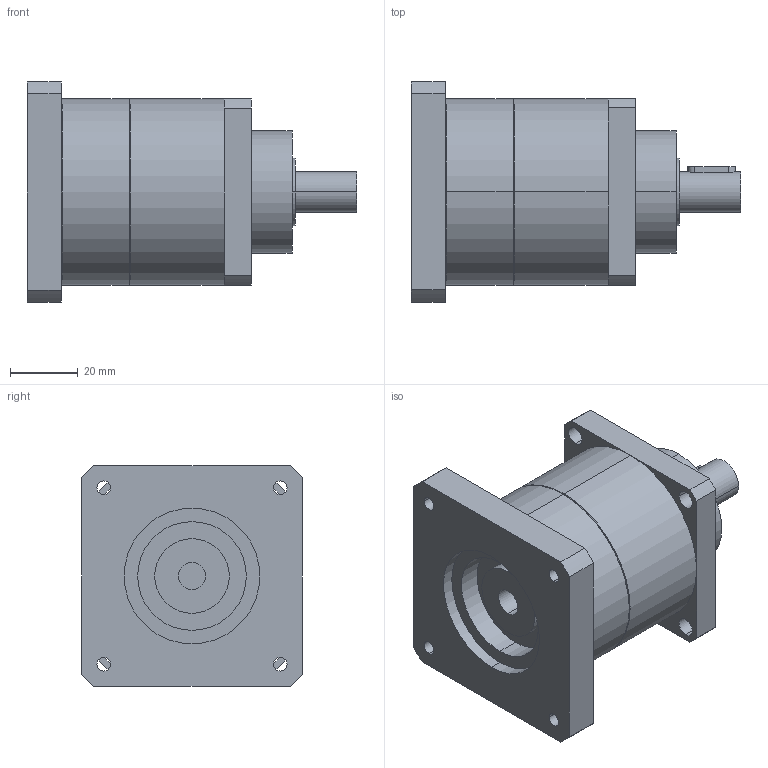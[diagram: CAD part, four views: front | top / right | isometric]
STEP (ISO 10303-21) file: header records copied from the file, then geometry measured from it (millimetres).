
FILE_DESCRIPTION(('CoCreate Modeling STEP Export'),'2;1');
FILE_NAME('GPT55_ig-3-4-5-7-10_12_B5A_8_P34.stp','2014-08-25T14:34:38',(''),(''),'CoCreate Modeling STEP processor for AP214 (Solid Model)','CoCreate Modeling 16.00C 25-Feb-2009 (C) Parametric Technology GmbH','');
FILE_SCHEMA(('AUTOMOTIVE_DESIGN { 1 0 10303 214 1 1 1 1 }'));
Length unit declared in the file: millimetre
Products named in the file (2): GPT55_ig-3-4-5-7-10_12_B5A_8_P34
Assembly tree (1 placements, depth 2):
  GPT55_ig-3-4-5-7-10_12_B5A_8_P34
    GPT55_ig-3-4-5-7-10_12_B5A_8_P34
Bounding box: 97 x 65 x 65 mm (x, y, z)
Volume: 183729.4 mm3; surface area: 27258.3 mm2
Topology: 1 solids, 1 shells, 77 faces, 205 edges, 140 vertices
Faces by surface type: cylinder 46, plane 27, cone 4
Entity records: 2520 total; most frequent: CARTESIAN_POINT 711, ORIENTED_EDGE 410, DIRECTION 318, EDGE_CURVE 205, VERTEX_POINT 140, AXIS2_PLACEMENT_3D 117, EDGE_LOOP 103, VECTOR 84
